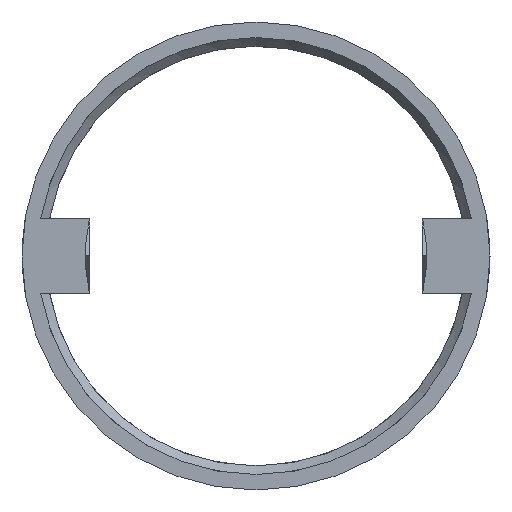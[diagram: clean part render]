
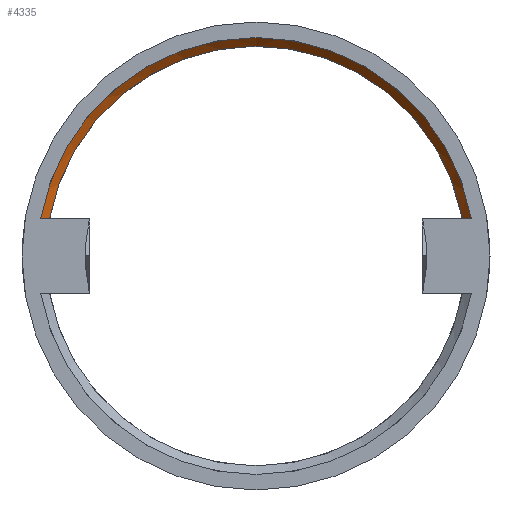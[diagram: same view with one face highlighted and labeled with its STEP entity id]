
A CAD part, left-side view. The second image highlights one B-rep face of the part: STEP entity #4335.
In plain terms, the highlighted conical face has half-angle 40 degrees and reference radius 18.85 mm.
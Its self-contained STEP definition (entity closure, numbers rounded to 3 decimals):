
#165 = PLANE('',#166);
#166 = AXIS2_PLACEMENT_3D('',#167,#168,#169);
#167 = CARTESIAN_POINT('',(339.5,-19.,3.));
#168 = DIRECTION('',(0.,0.,1.));
#169 = DIRECTION('',(1.,0.,-0.));
#222 = PLANE('',#223);
#223 = AXIS2_PLACEMENT_3D('',#224,#225,#226);
#224 = CARTESIAN_POINT('',(339.5,13.,3.));
#225 = DIRECTION('',(0.,0.,1.));
#226 = DIRECTION('',(1.,0.,-0.));
#357 = CYLINDRICAL_SURFACE('',#358,16.9);
#358 = AXIS2_PLACEMENT_3D('',#359,#360,#361);
#359 = CARTESIAN_POINT('',(342.,0.,0.));
#360 = DIRECTION('',(1.,0.,0.));
#361 = DIRECTION('',(-0.,1.,0.));
#1863 = VERTEX_POINT('',#1864);
#1864 = CARTESIAN_POINT('',(342.,16.632,3.));
#1883 = EDGE_CURVE('',#1863,#1884,#1886,.T.);
#1884 = VERTEX_POINT('',#1885);
#1885 = CARTESIAN_POINT('',(342.,-16.632,3.));
#1886 = SURFACE_CURVE('',#1887,(#1892,#1899),.PCURVE_S1.);
#1887 = CIRCLE('',#1888,16.9);
#1888 = AXIS2_PLACEMENT_3D('',#1889,#1890,#1891);
#1889 = CARTESIAN_POINT('',(342.,0.,0.));
#1890 = DIRECTION('',(1.,0.,0.));
#1891 = DIRECTION('',(-0.,1.,0.));
#1892 = PCURVE('',#357,#1893);
#1893 = DEFINITIONAL_REPRESENTATION('',(#1894),#1898);
#1894 = LINE('',#1895,#1896);
#1895 = CARTESIAN_POINT('',(0.,0.));
#1896 = VECTOR('',#1897,1.);
#1897 = DIRECTION('',(1.,0.));
#1898 = ( GEOMETRIC_REPRESENTATION_CONTEXT(2) 
PARAMETRIC_REPRESENTATION_CONTEXT() REPRESENTATION_CONTEXT('2D SPACE',''
  ) );
#1899 = PCURVE('',#1900,#1905);
#1900 = CONICAL_SURFACE('',#1901,18.85,0.698);
#1901 = AXIS2_PLACEMENT_3D('',#1902,#1903,#1904);
#1902 = CARTESIAN_POINT('',(339.676,0.,0.));
#1903 = DIRECTION('',(-1.,-0.,-0.));
#1904 = DIRECTION('',(-0.,1.,0.));
#1905 = DEFINITIONAL_REPRESENTATION('',(#1906),#1910);
#1906 = LINE('',#1907,#1908);
#1907 = CARTESIAN_POINT('',(-0.,-2.324));
#1908 = VECTOR('',#1909,1.);
#1909 = DIRECTION('',(-1.,-0.));
#1910 = ( GEOMETRIC_REPRESENTATION_CONTEXT(2) 
PARAMETRIC_REPRESENTATION_CONTEXT() REPRESENTATION_CONTEXT('2D SPACE',''
  ) );
#4335 = ADVANCED_FACE('',(#4336),#1900,.F.);
#4336 = FACE_BOUND('',#4337,.F.);
#4337 = EDGE_LOOP('',(#4338,#4365,#4394,#4419));
#4338 = ORIENTED_EDGE('',*,*,#4339,.F.);
#4339 = EDGE_CURVE('',#4340,#1863,#4342,.T.);
#4340 = VERTEX_POINT('',#4341);
#4341 = CARTESIAN_POINT('',(341.1,17.398,3.));
#4342 = SURFACE_CURVE('',#4343,(#4348,#4358),.PCURVE_S1.);
#4343 = HYPERBOLA('',#4344,3.575,3.);
#4344 = AXIS2_PLACEMENT_3D('',#4345,#4346,#4347);
#4345 = CARTESIAN_POINT('',(362.141,0.,3.));
#4346 = DIRECTION('',(0.,0.,1.));
#4347 = DIRECTION('',(-1.,0.,0.));
#4348 = PCURVE('',#1900,#4349);
#4349 = DEFINITIONAL_REPRESENTATION('',(#4350),#4357);
#4350 = B_SPLINE_CURVE_WITH_KNOTS('',5,(#4351,#4352,#4353,#4354,#4355,
    #4356),.UNSPECIFIED.,.F.,.F.,(6,6),(-2.458,-2.414)
  ,.PIECEWISE_BEZIER_KNOTS.);
#4351 = CARTESIAN_POINT('',(-0.171,-1.424));
#4352 = CARTESIAN_POINT('',(-0.172,-1.608));
#4353 = CARTESIAN_POINT('',(-0.174,-1.79));
#4354 = CARTESIAN_POINT('',(-0.175,-1.97));
#4355 = CARTESIAN_POINT('',(-0.177,-2.148));
#4356 = CARTESIAN_POINT('',(-0.178,-2.324));
#4357 = ( GEOMETRIC_REPRESENTATION_CONTEXT(2) 
PARAMETRIC_REPRESENTATION_CONTEXT() REPRESENTATION_CONTEXT('2D SPACE',''
  ) );
#4358 = PCURVE('',#222,#4359);
#4359 = DEFINITIONAL_REPRESENTATION('',(#4360),#4364);
#4360 = ( BOUNDED_CURVE() B_SPLINE_CURVE(2,(#4361,#4362,#4363),
.UNSPECIFIED.,.F.,.F.) B_SPLINE_CURVE_WITH_KNOTS((3,3),(-2.458,
-2.414),.PIECEWISE_BEZIER_KNOTS.) CURVE() 
GEOMETRIC_REPRESENTATION_ITEM() RATIONAL_B_SPLINE_CURVE((1.,
1.,1.)) REPRESENTATION_ITEM('') );
#4361 = CARTESIAN_POINT('',(1.6,4.398));
#4362 = CARTESIAN_POINT('',(2.06,4.007));
#4363 = CARTESIAN_POINT('',(2.5,3.632));
#4364 = ( GEOMETRIC_REPRESENTATION_CONTEXT(2) 
PARAMETRIC_REPRESENTATION_CONTEXT() REPRESENTATION_CONTEXT('2D SPACE',''
  ) );
#4365 = ORIENTED_EDGE('',*,*,#4366,.T.);
#4366 = EDGE_CURVE('',#4340,#4367,#4369,.T.);
#4367 = VERTEX_POINT('',#4368);
#4368 = CARTESIAN_POINT('',(341.1,-17.398,3.));
#4369 = SURFACE_CURVE('',#4370,(#4375,#4382),.PCURVE_S1.);
#4370 = CIRCLE('',#4371,17.655);
#4371 = AXIS2_PLACEMENT_3D('',#4372,#4373,#4374);
#4372 = CARTESIAN_POINT('',(341.1,0.,0.));
#4373 = DIRECTION('',(1.,0.,0.));
#4374 = DIRECTION('',(-0.,1.,0.));
#4375 = PCURVE('',#1900,#4376);
#4376 = DEFINITIONAL_REPRESENTATION('',(#4377),#4381);
#4377 = LINE('',#4378,#4379);
#4378 = CARTESIAN_POINT('',(-0.,-1.424));
#4379 = VECTOR('',#4380,1.);
#4380 = DIRECTION('',(-1.,-0.));
#4381 = ( GEOMETRIC_REPRESENTATION_CONTEXT(2) 
PARAMETRIC_REPRESENTATION_CONTEXT() REPRESENTATION_CONTEXT('2D SPACE',''
  ) );
#4382 = PCURVE('',#4383,#4388);
#4383 = PLANE('',#4384);
#4384 = AXIS2_PLACEMENT_3D('',#4385,#4386,#4387);
#4385 = CARTESIAN_POINT('',(341.1,0.,0.));
#4386 = DIRECTION('',(1.,0.,0.));
#4387 = DIRECTION('',(-0.,0.,1.));
#4388 = DEFINITIONAL_REPRESENTATION('',(#4389),#4393);
#4389 = CIRCLE('',#4390,17.655);
#4390 = AXIS2_PLACEMENT_2D('',#4391,#4392);
#4391 = CARTESIAN_POINT('',(0.,0.));
#4392 = DIRECTION('',(0.,-1.));
#4393 = ( GEOMETRIC_REPRESENTATION_CONTEXT(2) 
PARAMETRIC_REPRESENTATION_CONTEXT() REPRESENTATION_CONTEXT('2D SPACE',''
  ) );
#4394 = ORIENTED_EDGE('',*,*,#4395,.F.);
#4395 = EDGE_CURVE('',#1884,#4367,#4396,.T.);
#4396 = SURFACE_CURVE('',#4397,(#4402,#4412),.PCURVE_S1.);
#4397 = HYPERBOLA('',#4398,3.575,3.);
#4398 = AXIS2_PLACEMENT_3D('',#4399,#4400,#4401);
#4399 = CARTESIAN_POINT('',(362.141,0.,3.));
#4400 = DIRECTION('',(0.,0.,1.));
#4401 = DIRECTION('',(-1.,0.,0.));
#4402 = PCURVE('',#1900,#4403);
#4403 = DEFINITIONAL_REPRESENTATION('',(#4404),#4411);
#4404 = B_SPLINE_CURVE_WITH_KNOTS('',5,(#4405,#4406,#4407,#4408,#4409,
    #4410),.UNSPECIFIED.,.F.,.F.,(6,6),(2.414,2.458),
  .PIECEWISE_BEZIER_KNOTS.);
#4405 = CARTESIAN_POINT('',(-2.963,-2.324));
#4406 = CARTESIAN_POINT('',(-2.965,-2.148));
#4407 = CARTESIAN_POINT('',(-2.966,-1.97));
#4408 = CARTESIAN_POINT('',(-2.968,-1.79));
#4409 = CARTESIAN_POINT('',(-2.969,-1.608));
#4410 = CARTESIAN_POINT('',(-2.971,-1.424));
#4411 = ( GEOMETRIC_REPRESENTATION_CONTEXT(2) 
PARAMETRIC_REPRESENTATION_CONTEXT() REPRESENTATION_CONTEXT('2D SPACE',''
  ) );
#4412 = PCURVE('',#165,#4413);
#4413 = DEFINITIONAL_REPRESENTATION('',(#4414),#4418);
#4414 = ( BOUNDED_CURVE() B_SPLINE_CURVE(2,(#4415,#4416,#4417),
.UNSPECIFIED.,.F.,.F.) B_SPLINE_CURVE_WITH_KNOTS((3,3),(2.414,
2.458),.PIECEWISE_BEZIER_KNOTS.) CURVE() 
GEOMETRIC_REPRESENTATION_ITEM() RATIONAL_B_SPLINE_CURVE((1.,
1.,1.)) REPRESENTATION_ITEM('') );
#4415 = CARTESIAN_POINT('',(2.5,2.368));
#4416 = CARTESIAN_POINT('',(2.06,1.993));
#4417 = CARTESIAN_POINT('',(1.6,1.602));
#4418 = ( GEOMETRIC_REPRESENTATION_CONTEXT(2) 
PARAMETRIC_REPRESENTATION_CONTEXT() REPRESENTATION_CONTEXT('2D SPACE',''
  ) );
#4419 = ORIENTED_EDGE('',*,*,#1883,.F.);
